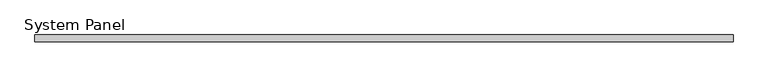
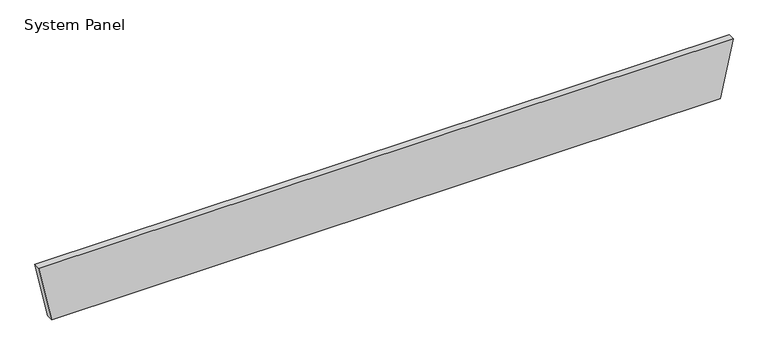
"""IFC4 building model written with IfcOpenShell, lengths in millimetres: plate geometry, System Panel : MetecnoPanel_125mm_Plain_Surfmist."""

from ifc_helpers import new_model, si_unit, frame, origin, place, context, project, spatial, polyline, outline, extrude, source, transform, mapped, element, save


def system_panel_2bb59846(model_context):
    return source(origin(), model_context, "Body", "SweptSolid", [
        extrude(outline(polyline([(0.0, -6239.1323567), (0.0, 6239.1323567), (1100.0, 6478.2647134), (1100.0, -6478.2647134), (0.0, -6239.1323567)])), frame((0.0, -125.0, 0.0), z_axis=(0.0, 1.0, 0.0), x_axis=(0.0, 0.0, 1.0)), (0.0, 0.0, 1.0), 125.0),
    ])


if __name__ == "__main__":
    model = new_model("IFC4")
    model_context = context("Model", 3, world=origin())
    ifc_project = project(units=[si_unit("LENGTHUNIT", "METRE", prefix="MILLI")], contexts=[model_context])
    site = spatial("IfcSite", under=ifc_project)
    building = spatial("IfcBuilding", under=site)
    placement = place(None, origin())
    system_panel_shape = system_panel_2bb59846(model_context)
    element("IfcPlate", 1, ObjectType="System Panel : MetecnoPanel_125mm_Plain_Surfmist", at=placement, inside=building, context=model_context, shape_type="MappedRepresentation", body=[
        mapped(system_panel_shape, transform((0.0, 0.0, 0.0), x_axis=(1.0, 0.0, 0.0), y_axis=(0.0, 1.0, 0.0), z_axis=(0.0, 0.0, 1.0))),
    ])
    save(model, "model.ifc")
